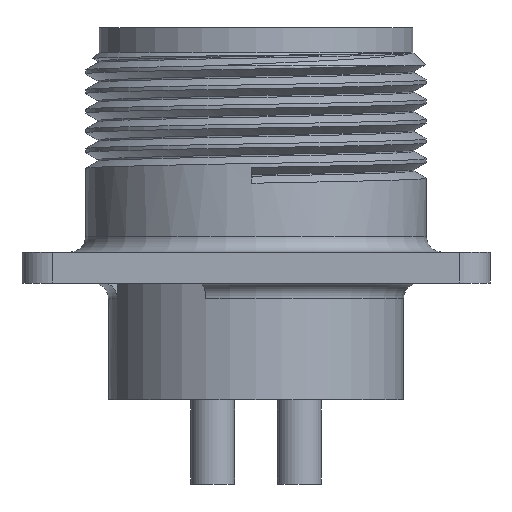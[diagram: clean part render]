
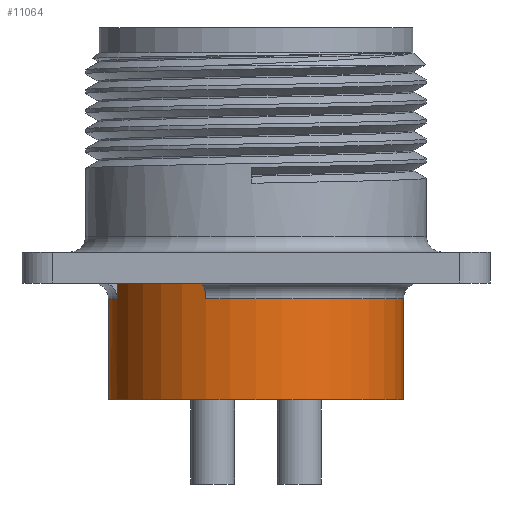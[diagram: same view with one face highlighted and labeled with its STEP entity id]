
A CAD part, front view. The second image highlights one B-rep face of the part: STEP entity #11064.
In plain terms, the highlighted cylindrical face has radius 9.525 mm (diameter 19.05 mm), a partial arc.
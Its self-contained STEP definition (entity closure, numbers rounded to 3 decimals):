
#168 = CIRCLE ( 'NONE', #9299, 9.525 ) ;
#263 = AXIS2_PLACEMENT_3D ( 'NONE', #23172, #12025, #829 ) ;
#390 = DIRECTION ( 'NONE',  ( 0., 0., -1. ) ) ;
#443 = DIRECTION ( 'NONE',  ( 0., 0., -1. ) ) ;
#449 = CIRCLE ( 'NONE', #10220, 9.525 ) ;
#812 = VECTOR ( 'NONE', #22533, 1000. ) ;
#829 = DIRECTION ( 'NONE',  ( 1., 0., 0. ) ) ;
#1129 = CARTESIAN_POINT ( 'NONE',  ( 9.525, 0., -24. ) ) ;
#1217 = ORIENTED_EDGE ( 'NONE', *, *, #21707, .F. ) ;
#1524 = CIRCLE ( 'NONE', #21021, 9.525 ) ;
#1599 = EDGE_CURVE ( 'NONE', #8824, #20450, #168, .T. ) ;
#1655 = DIRECTION ( 'NONE',  ( 0., 0., 1. ) ) ;
#2459 = LINE ( 'NONE', #1129, #16741 ) ;
#4078 = CARTESIAN_POINT ( 'NONE',  ( -9.525, 0., -24. ) ) ;
#4292 = FACE_OUTER_BOUND ( 'NONE', #17982, .T. ) ;
#4356 = ORIENTED_EDGE ( 'NONE', *, *, #13190, .T. ) ;
#8063 = ORIENTED_EDGE ( 'NONE', *, *, #11689, .T. ) ;
#8824 = VERTEX_POINT ( 'NONE', #9920 ) ;
#9102 = CARTESIAN_POINT ( 'NONE',  ( 0., 0., -24. ) ) ;
#9299 = AXIS2_PLACEMENT_3D ( 'NONE', #11637, #443, #13486 ) ;
#9301 = CARTESIAN_POINT ( 'NONE',  ( 0., 0., -24. ) ) ;
#9471 = DIRECTION ( 'NONE',  ( 0., 0., -1. ) ) ;
#9663 = CIRCLE ( 'NONE', #263, 9.525 ) ;
#9829 = VECTOR ( 'NONE', #390, 1000. ) ;
#9848 = VERTEX_POINT ( 'NONE', #19922 ) ;
#9920 = CARTESIAN_POINT ( 'NONE',  ( 9.525, 0., -17.48 ) ) ;
#10047 = EDGE_CURVE ( 'NONE', #9848, #20450, #19473, .T. ) ;
#10220 = AXIS2_PLACEMENT_3D ( 'NONE', #9301, #22317, #11168 ) ;
#10260 = ORIENTED_EDGE ( 'NONE', *, *, #22709, .F. ) ;
#10930 = DIRECTION ( 'NONE',  ( 0., 0., 1. ) ) ;
#11064 = ADVANCED_FACE ( 'NONE', ( #4292 ), #23542, .T. ) ;
#11168 = DIRECTION ( 'NONE',  ( -1., 0., 0. ) ) ;
#11368 = CARTESIAN_POINT ( 'NONE',  ( -3.258, -8.951, -15.98 ) ) ;
#11637 = CARTESIAN_POINT ( 'NONE',  ( 0., 0., -17.48 ) ) ;
#11689 = EDGE_CURVE ( 'NONE', #23932, #14531, #14752, .T. ) ;
#12025 = DIRECTION ( 'NONE',  ( 0., 0., 1. ) ) ;
#12434 = VERTEX_POINT ( 'NONE', #16387 ) ;
#13190 = EDGE_CURVE ( 'NONE', #15458, #8824, #2459, .T. ) ;
#13486 = DIRECTION ( 'NONE',  ( -1., 0., 0. ) ) ;
#14210 = AXIS2_PLACEMENT_3D ( 'NONE', #9102, #1655, #23980 ) ;
#14493 = CARTESIAN_POINT ( 'NONE',  ( -9.525, 0., -24. ) ) ;
#14531 = VERTEX_POINT ( 'NONE', #19040 ) ;
#14674 = CARTESIAN_POINT ( 'NONE',  ( 9.525, 0., -24. ) ) ;
#14752 = LINE ( 'NONE', #20850, #9829 ) ;
#15458 = VERTEX_POINT ( 'NONE', #14674 ) ;
#16012 = EDGE_CURVE ( 'NONE', #15458, #23709, #449, .T. ) ;
#16149 = ORIENTED_EDGE ( 'NONE', *, *, #10047, .F. ) ;
#16387 = CARTESIAN_POINT ( 'NONE',  ( -9.525, 0., -17.48 ) ) ;
#16589 = LINE ( 'NONE', #14493, #24163 ) ;
#16741 = VECTOR ( 'NONE', #21521, 1000. ) ;
#17982 = EDGE_LOOP ( 'NONE', ( #10260, #19112, #4356, #18456, #16149, #1217, #8063, #21189 ) ) ;
#18456 = ORIENTED_EDGE ( 'NONE', *, *, #1599, .T. ) ;
#18587 = CARTESIAN_POINT ( 'NONE',  ( -3.258, -8.951, -17.48 ) ) ;
#19040 = CARTESIAN_POINT ( 'NONE',  ( -8.951, -3.258, -17.48 ) ) ;
#19112 = ORIENTED_EDGE ( 'NONE', *, *, #16012, .F. ) ;
#19395 = EDGE_CURVE ( 'NONE', #14531, #12434, #1524, .T. ) ;
#19473 = LINE ( 'NONE', #11368, #812 ) ;
#19922 = CARTESIAN_POINT ( 'NONE',  ( -3.258, -8.951, -15.98 ) ) ;
#20450 = VERTEX_POINT ( 'NONE', #18587 ) ;
#20597 = CARTESIAN_POINT ( 'NONE',  ( 0., 0., -17.48 ) ) ;
#20850 = CARTESIAN_POINT ( 'NONE',  ( -8.951, -3.258, -15.98 ) ) ;
#21021 = AXIS2_PLACEMENT_3D ( 'NONE', #20597, #9471, #22478 ) ;
#21189 = ORIENTED_EDGE ( 'NONE', *, *, #19395, .T. ) ;
#21521 = DIRECTION ( 'NONE',  ( 0., 0., 1. ) ) ;
#21707 = EDGE_CURVE ( 'NONE', #23932, #9848, #9663, .T. ) ;
#21767 = CARTESIAN_POINT ( 'NONE',  ( -8.951, -3.258, -15.98 ) ) ;
#22317 = DIRECTION ( 'NONE',  ( 0., 0., -1. ) ) ;
#22478 = DIRECTION ( 'NONE',  ( -1., 0., 0. ) ) ;
#22533 = DIRECTION ( 'NONE',  ( 0., 0., -1. ) ) ;
#22709 = EDGE_CURVE ( 'NONE', #23709, #12434, #16589, .T. ) ;
#23172 = CARTESIAN_POINT ( 'NONE',  ( 0., 0., -15.98 ) ) ;
#23542 = CYLINDRICAL_SURFACE ( 'NONE', #14210, 9.525 ) ;
#23709 = VERTEX_POINT ( 'NONE', #4078 ) ;
#23932 = VERTEX_POINT ( 'NONE', #21767 ) ;
#23980 = DIRECTION ( 'NONE',  ( 1., 0., 0. ) ) ;
#24163 = VECTOR ( 'NONE', #10930, 1000. ) ;
